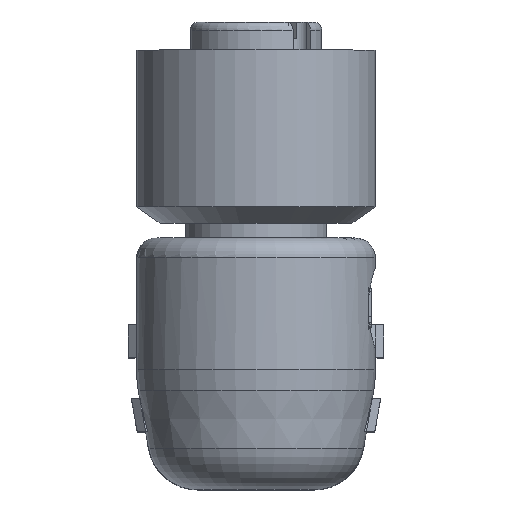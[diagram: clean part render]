
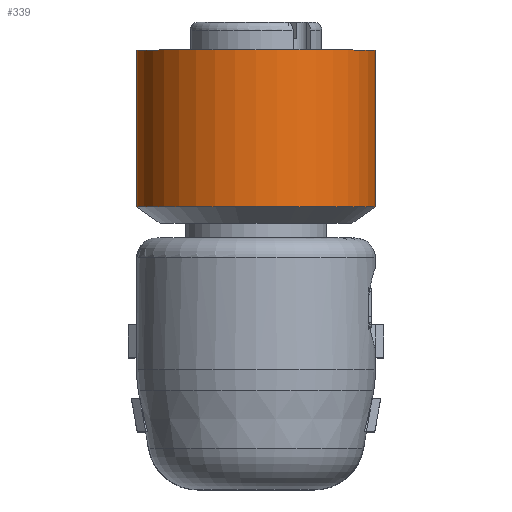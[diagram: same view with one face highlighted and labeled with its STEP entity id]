
A CAD part, top view. The second image highlights one B-rep face of the part: STEP entity #339.
In plain terms, the highlighted cylindrical face has radius 7.25 mm (diameter 14.5 mm), a full revolution.
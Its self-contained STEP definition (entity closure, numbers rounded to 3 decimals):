
#339 = ADVANCED_FACE( '', ( #773, #774 ), #775, .T. );
#773 = FACE_OUTER_BOUND( '', #1302, .T. );
#774 = FACE_OUTER_BOUND( '', #1303, .T. );
#775 = CYLINDRICAL_SURFACE( '', #1304, 7.25 );
#1302 = EDGE_LOOP( '', ( #2262 ) );
#1303 = EDGE_LOOP( '', ( #2263 ) );
#1304 = AXIS2_PLACEMENT_3D( '', #2264, #2265, #2266 );
#2262 = ORIENTED_EDGE( '', *, *, #3266, .F. );
#2263 = ORIENTED_EDGE( '', *, *, #3281, .T. );
#2264 = CARTESIAN_POINT( '', ( -0.004, -1.7, -0.005 ) );
#2265 = DIRECTION( '', ( 0., -1., 0. ) );
#2266 = DIRECTION( '', ( 0., 0., 1. ) );
#3266 = EDGE_CURVE( '', #3948, #3948, #3949, .T. );
#3281 = EDGE_CURVE( '', #3970, #3970, #3971, .T. );
#3948 = VERTEX_POINT( '', #5076 );
#3949 = CIRCLE( '', #5077, 7.25 );
#3970 = VERTEX_POINT( '', #5104 );
#3971 = CIRCLE( '', #5105, 7.25 );
#5076 = CARTESIAN_POINT( '', ( -0.004, -11.2, 7.245 ) );
#5077 = AXIS2_PLACEMENT_3D( '', #5809, #5810, #5811 );
#5104 = CARTESIAN_POINT( '', ( -0.004, -1.7, 7.245 ) );
#5105 = AXIS2_PLACEMENT_3D( '', #5827, #5828, #5829 );
#5809 = CARTESIAN_POINT( '', ( -0.004, -11.2, -0.005 ) );
#5810 = DIRECTION( '', ( 0., -1., 0. ) );
#5811 = DIRECTION( '', ( 0., 0., 1. ) );
#5827 = CARTESIAN_POINT( '', ( -0.004, -1.7, -0.005 ) );
#5828 = DIRECTION( '', ( 0., -1., 0. ) );
#5829 = DIRECTION( '', ( 0., 0., 1. ) );
